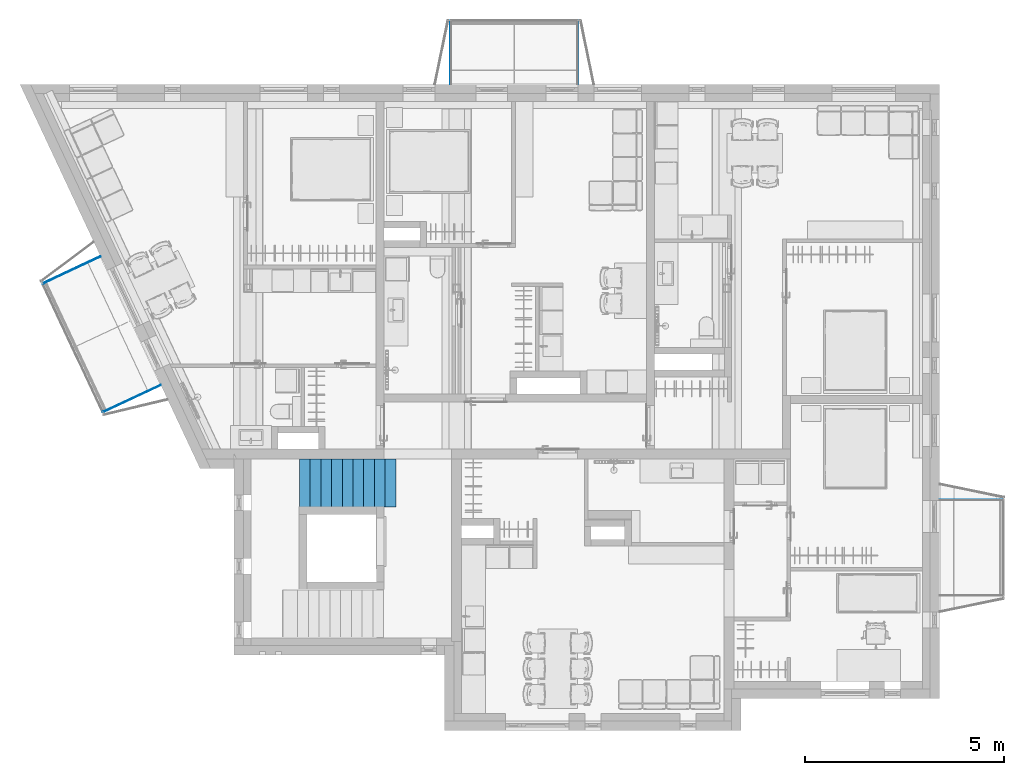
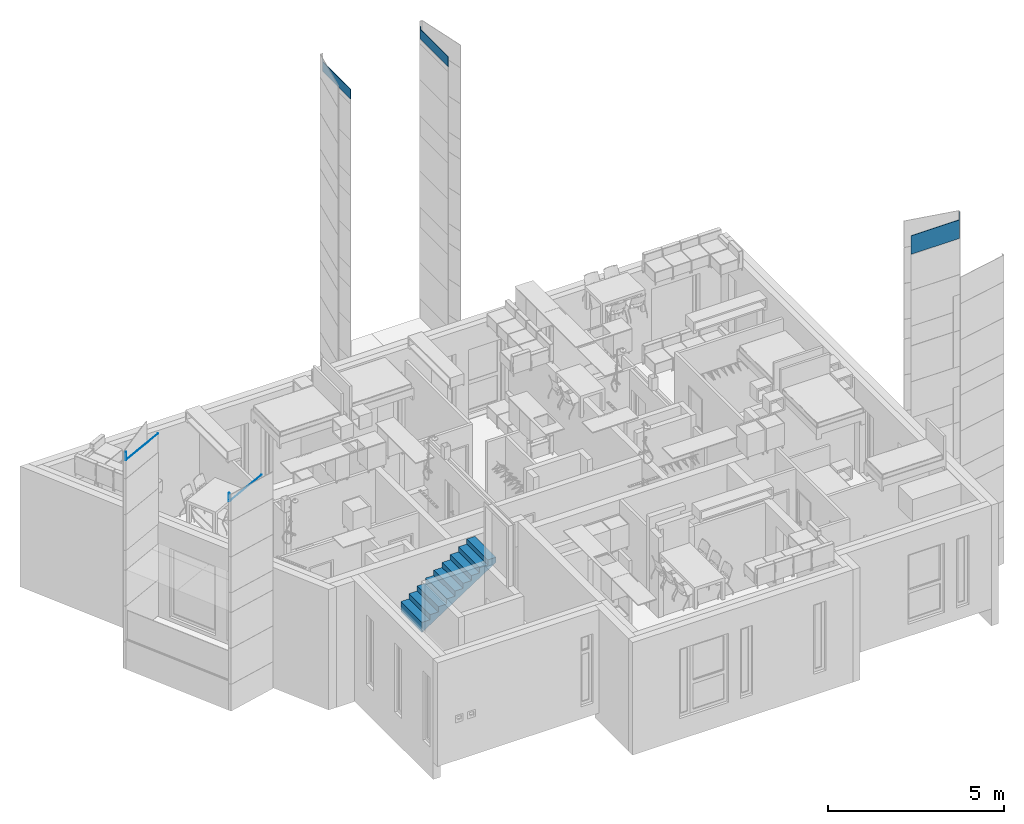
# One storey, part 42 of 125: 7 building element parts, 1 stair flight, 6 elements without a shape of their own.
"""IFC2X3 building model written with IfcOpenShell, lengths in millimetres."""

from ifc_helpers import new_model, entity, si_unit, converted_unit, direction, frame, origin, place, context, subcontext, project, spatial, faceted_brep, material, type_object, element, aggregate, save


model = new_model("IFC2X3")

# Units and contexts
model_context = context("Model", 3, precision=0.01, world=origin(), true_north=direction((6.123233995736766e-17, 1.0)))
plan_context = context("Plan", 3, precision=0.01, world=origin(), true_north=direction((6.123233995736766e-17, 1.0)))
body_context = subcontext(model_context, "Body", "Model", "MODEL_VIEW")
ifc_project = project(units=[si_unit("LENGTHUNIT", "METRE", prefix="MILLI"), converted_unit("PLANEANGLEUNIT", "DEGREE", entity("IfcPlaneAngleMeasure", 0.017453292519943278), si_unit("PLANEANGLEUNIT", "RADIAN"), dimensions=[0, 0, 0, 0, 0, 0, 0]), si_unit("AREAUNIT", "SQUARE_METRE")], contexts=[model_context, plan_context])

# Site, building, storey
site_placement = place(None, origin())
site = spatial("IfcSite", under=ifc_project, at=site_placement, Name="Default", CompositionType="ELEMENT")
building_placement = place(site_placement, origin())
building = spatial("IfcBuilding", under=site, at=building_placement, CompositionType="ELEMENT")
storey_placement = place(building_placement, frame((0.0, 0.0, 3125.0)))
storey = spatial("IfcBuildingStorey", under=building, at=storey_placement, Name="2K", CompositionType="ELEMENT", Elevation=3125.0)

# Stair, stair flight
type_product = type_object("IfcTypeProduct", Name="Precast Stair:Default. Monteeritav raudbetoontrepp")
stair_placement = place(storey_placement, origin())
stair = element("IfcStair", 1, at=stair_placement, inside=storey, type_object=type_product, Name="Precast Stair:Stair", ObjectType="Precast Stair:Default. Monteeritav raudbetoontrepp", ShapeType="HALF_TURN_STAIR")
ifc_material_1 = material(Name="Temp. Betoon. Armeeritud. Kohtvalu")
stair_flight_type = type_object("IfcStairFlightType", Name="Monolithic Run:Default Run. Raudbetoon", PredefinedType="STRAIGHT")
stair_flight_placement = place(stair_placement, frame((1213.7438214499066, 5197.496907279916, 0.0)))
stair_flight = element("IfcStairFlight", 2, at=stair_flight_placement, type_object=stair_flight_type, material=ifc_material_1, Name="Precast Stair:Stair:508931 Run 2", ObjectType="Monolithic Run:Default Run. Raudbetoon", NumberOfRiser=10, NumberOfTreads=9, RiserHeight=0.5777923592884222, TreadLength=0.8858267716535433, context=body_context, shape_type="Brep", body=[
    faceted_brep([(270.0, 1200.0, 1741.1111111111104), (0.0, 1200.0, 1741.1111111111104), (0.0, 0.0, 1741.1111111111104), (270.0, 0.0, 1741.1111111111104), (270.0, 1200.0, 1562.022951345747), (0.0, 1200.0, 1385.911840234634), (0.0, 0.0, 1385.911840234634), (270.0, 0.0, 1562.0229513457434), (540.0, 1200.0, 1917.2222222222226), (270.0, 1200.0, 1917.2222222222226), (270.0, 0.0, 1917.2222222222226), (540.0, 0.0, 1917.2222222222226), (540.0, 1200.0, 1738.1340624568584), (540.0, 0.0, 1738.1340624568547), (810.0, 1200.0, 2093.333333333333), (540.0, 1200.0, 2093.333333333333), (540.0, 0.0, 2093.333333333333), (810.0, 0.0, 2093.333333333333), (810.0, 1200.0, 1914.2451735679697), (810.0, 0.0, 1914.245173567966), (1080.0, 1200.0, 2269.4444444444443), (810.0, 1200.0, 2269.4444444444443), (810.0, 0.0, 2269.4444444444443), (1080.0, 0.0, 2269.4444444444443), (1080.0, 1200.0, 2090.356284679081), (1080.0, 0.0, 2090.3562846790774), (1350.0, 1200.0, 2445.5555555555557), (1080.0, 1200.0, 2445.5555555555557), (1080.0, 0.0, 2445.5555555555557), (1350.0, 0.0, 2445.5555555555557), (1350.0, 1200.0, 2266.4673957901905), (1350.0, 0.0, 2266.467395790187), (1620.0, 1200.0, 2621.666666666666), (1350.0, 1200.0, 2621.666666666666), (1350.0, 0.0, 2621.666666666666), (1620.0, 0.0, 2621.666666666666), (1620.0, 1200.0, 2442.5785069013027), (1620.0, 0.0, 2442.578506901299), (1890.0, 1200.0, 2797.7777777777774), (1620.0, 1200.0, 2797.7777777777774), (1620.0, 0.0, 2797.7777777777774), (1890.0, 0.0, 2797.7777777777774), (1890.0, 1200.0, 2618.689618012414), (1890.0, 0.0, 2618.6896180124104), (2160.0, 1200.0, 2973.8888888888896), (1890.0, 1200.0, 2973.8888888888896), (1890.0, 0.0, 2973.8888888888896), (2160.0, 0.0, 2973.8888888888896), (2160.0, 1200.0, 2794.8007291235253), (2160.0, 0.0, 2794.8007291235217), (2430.0, 1200.0, 2970.911840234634), (2430.0, 0.0, 2970.911840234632), (2430.0, 1200.0, 3150.0), (2160.0, 1200.0, 3150.0), (2160.0, 0.0, 3150.0), (2430.0, 0.0, 3150.0)], [[[0, 1, 2, 3]], [[1, 0, 4, 5]], [[2, 1, 5, 6]], [[3, 2, 6, 7]], [[8, 9, 10, 11]], [[9, 8, 12, 4, 0]], [[10, 9, 0, 3]], [[11, 10, 3, 7, 13]], [[14, 15, 16, 17]], [[15, 14, 18, 12, 8]], [[16, 15, 8, 11]], [[17, 16, 11, 13, 19]], [[20, 21, 22, 23]], [[21, 20, 24, 18, 14]], [[22, 21, 14, 17]], [[23, 22, 17, 19, 25]], [[26, 27, 28, 29]], [[27, 26, 30, 24, 20]], [[28, 27, 20, 23]], [[29, 28, 23, 25, 31]], [[32, 33, 34, 35]], [[33, 32, 36, 30, 26]], [[34, 33, 26, 29]], [[35, 34, 29, 31, 37]], [[38, 39, 40, 41]], [[39, 38, 42, 36, 32]], [[40, 39, 32, 35]], [[41, 40, 35, 37, 43]], [[44, 45, 46, 47]], [[45, 44, 48, 42, 38]], [[46, 45, 38, 41]], [[47, 46, 41, 43, 49]], [[5, 4, 12, 18, 24, 30, 36, 42, 48, 50, 51, 49, 43, 37, 31, 25, 19, 13, 7, 6]], [[52, 53, 54, 55]], [[53, 52, 50, 48, 44]], [[54, 53, 44, 47]], [[55, 54, 47, 49, 51]], [[52, 55, 51, 50]]]),
])
aggregate(stair, [stair_flight])

# Wall, building element part
wall_type = type_object("IfcWallType", Name="Basic Wall:VS-komposiit", PredefinedType="STANDARD")
wall_1_placement = place(storey_placement, frame((5025.4165884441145, 17432.0, -1010.0), z_axis=(0.0, 0.0, 1.0), x_axis=(0.0, -1.0, 0.0)))
wall_1 = element("IfcWall", 3, at=wall_1_placement, inside=storey, type_object=wall_type, Name="Basic Wall:VS-komposiit", ObjectType="Basic Wall:VS-komposiit")
ifc_material_2 = material(Name="_K. Õhk. Roov. Fassaadikatte alusroov. Horisontaalne. 25 mm")
building_element_part_1_placement = place(wall_1_placement, frame((1597.0, -10.0000004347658, 13096.0)))
building_element_part_1 = element("IfcBuildingElementPart", 4, at=building_element_part_1_placement, material=ifc_material_2, Name="Part", context=body_context, shape_type="Brep", body=[
    faceted_brep([(-1597.0, 16.000000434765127, 0.0), (0.0, 16.000000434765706, 0.0), (0.0, 4.3476661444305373e-07, 0.0), (-1597.0, 4.347660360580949e-07, 0.0), (-1597.0, 16.000000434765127, 438.9999999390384), (-1582.017676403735, 16.00000043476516, 438.9999999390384), (-1582.017676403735, 16.00000043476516, 340.0), (0.0, 16.000000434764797, 340.0), (0.0, 4.3476661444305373e-07, 340.0), (-1582.0177149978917, 0.0, 340.0), (-1582.0177149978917, 4.347660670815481e-07, 438.9999999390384), (-1597.0, 4.347660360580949e-07, 438.9999999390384)], [[[0, 1, 2, 3]], [[4, 5, 6, 7, 1, 0]], [[8, 9, 10, 11, 3, 2]], [[7, 8, 2, 1]], [[11, 4, 0, 3]], [[5, 4, 11, 10]], [[6, 5, 10, 9]], [[7, 6, 9, 8]]]),
])
aggregate(wall_1, [building_element_part_1])

wall_2_placement = place(storey_placement, frame((8225.0, 17432.0, -1010.0), z_axis=(0.0, 0.0, 1.0), x_axis=(0.0, -1.0, 0.0)))
wall_2 = element("IfcWall", 5, at=wall_2_placement, inside=storey, type_object=wall_type, Name="Basic Wall:VS-komposiit", ObjectType="Basic Wall:VS-komposiit")
building_element_part_2_placement = place(wall_2_placement, frame((1597.0, -6.0, 13096.0)))
building_element_part_2 = element("IfcBuildingElementPart", 6, at=building_element_part_2_placement, material=ifc_material_2, Name="Part", context=body_context, shape_type="Brep", body=[
    faceted_brep([(0.0, 0.0, 0.0), (-1597.0, 0.0, 0.0), (-1597.0, 16.0, 0.0), (0.0, 16.0, 0.0), (0.0, 0.0, 340.0), (-1582.0099875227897, 0.0, 340.0), (-1582.009987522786, 0.0, 438.9999999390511), (-1597.0, 0.0, 438.9999999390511), (-1597.0, 16.0, 438.9999999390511), (-1582.009948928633, 16.0, 438.9999999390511), (-1582.009948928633, 16.0, 340.0), (0.0, 16.0, 340.0)], [[[0, 1, 2, 3]], [[4, 5, 6, 7, 1, 0]], [[8, 9, 10, 11, 3, 2]], [[11, 4, 0, 3]], [[7, 8, 2, 1]], [[7, 6, 9, 8]], [[6, 5, 10, 9]], [[5, 4, 11, 10]]]),
])
aggregate(wall_2, [building_element_part_2])

wall_3_placement = place(storey_placement, frame((18932.0, 5366.353411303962, -1010.0), z_axis=(0.0, 0.0, 1.0), x_axis=(-1.0, 0.0, 0.0)))
wall_3 = element("IfcWall", 7, at=wall_3_placement, inside=storey, type_object=wall_type, Name="Basic Wall:VS-komposiit", ObjectType="Basic Wall:VS-komposiit")
building_element_part_3_placement = place(wall_3_placement, frame((1594.0, 6.0, 9757.499999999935)))
building_element_part_3 = element("IfcBuildingElementPart", 8, at=building_element_part_3_placement, material=ifc_material_2, Name="Part", context=body_context, shape_type="Brep", body=[
    faceted_brep([(-1594.0, 0.0, 0.0), (0.0, 0.0, 0.0), (0.0, -16.0, 0.0), (-1594.0, -16.0, 0.0), (-1594.0, 0.0, 917.5000000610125), (-1579.0176764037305, 0.0, 917.5000000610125), (-1579.0176764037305, 0.0, 642.5000000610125), (0.0, 0.0, 642.5000000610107), (0.0, -16.0, 642.5000000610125), (-1579.0177149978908, -16.000000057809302, 642.5000000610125), (-1579.0177149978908, -16.0, 917.5000000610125), (-1594.0, -16.0, 917.5000000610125)], [[[0, 1, 2, 3]], [[4, 5, 6, 7, 1, 0]], [[8, 9, 10, 11, 3, 2]], [[7, 8, 2, 1]], [[11, 4, 0, 3]], [[5, 4, 11, 10]], [[6, 5, 10, 9]], [[7, 6, 9, 8]]]),
])
aggregate(wall_3, [building_element_part_3])

# Wall, building element parts
wall_4_placement = place(storey_placement, frame((-5240.017652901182, 10821.401183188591, -1010.0), z_axis=(0.0, 0.0, 1.0), x_axis=(0.905459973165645, 0.42443166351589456, 0.0)))
wall_4 = element("IfcWall", 9, at=wall_4_placement, inside=storey, type_object=wall_type, Name="Basic Wall:VS-komposiit", ObjectType="Basic Wall:VS-komposiit")
ifc_material_3 = material(Name="_K. Välisviimistlus. Alumiinium-komposiitplaat")
building_element_part_4_placement = place(wall_4_placement, frame((-17.53722353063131, -9.279431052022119, 7229.700000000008)))
building_element_part_4 = element("IfcBuildingElementPart", 10, at=building_element_part_4_placement, material=ifc_material_3, Name="Part", context=body_context, shape_type="Brep", body=[
    faceted_brep([(1614.5372235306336, 3.2794310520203, 0.0), (1614.5372235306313, -0.7205689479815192, 0.0), (1.5372235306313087, -0.7205689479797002, 0.0), (1.5372235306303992, 3.2794310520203, 0.0), (1614.5372235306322, 3.2794310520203, 0.3000763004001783), (1614.5372235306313, -0.7205689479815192, 0.3000763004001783), (1.5372235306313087, -0.7205689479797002, 275.29999999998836), (32.53722268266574, -0.7205689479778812, 275.29999999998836), (32.537222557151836, 3.279431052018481, 275.29999999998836), (1.5372235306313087, 3.279431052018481, 275.29999999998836), (32.53722268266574, -0.7205689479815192, 0.3000763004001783), (32.537222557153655, 3.279431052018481, 0.3000763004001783)], [[[0, 1, 2, 3]], [[4, 5, 1, 0]], [[6, 7, 8, 9]], [[8, 7, 10, 11]], [[5, 4, 11, 10]], [[9, 8, 11, 4, 0, 3]], [[7, 6, 2, 1, 5, 10]], [[6, 9, 3, 2]]]),
])
building_element_part_5_placement = place(wall_4_placement, frame((-6.148894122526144, -3.1177242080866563, 7229.700000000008)))
building_element_part_5 = element("IfcBuildingElementPart", 11, at=building_element_part_5_placement, material=ifc_material_2, Name="Part", context=body_context, shape_type="Brep", body=[
    faceted_brep([(1603.148894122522, -2.8822757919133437, 0.0), (6.148894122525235, -2.8822757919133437, 0.0), (6.148894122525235, 13.117724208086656, 0.0), (1603.1488941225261, 13.117724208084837, 0.0), (1603.1488941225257, -2.8822757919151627, 0.3000763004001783), (21.14889314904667, -2.8822757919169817, 0.3000763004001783), (21.148893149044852, -2.8822757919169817, 275.29999999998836), (6.148894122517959, -2.8822757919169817, 275.29999999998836), (6.148894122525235, 13.117724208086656, 275.29999999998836), (21.148892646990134, 13.117724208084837, 275.29999999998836), (21.148892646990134, 13.117724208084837, 0.3000763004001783), (1603.1488941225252, 13.117724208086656, 0.3000763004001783)], [[[0, 1, 2, 3]], [[4, 5, 6, 7, 1, 0]], [[8, 9, 10, 11, 3, 2]], [[11, 4, 0, 3]], [[7, 8, 2, 1]], [[7, 6, 9, 8]], [[6, 5, 10, 9]], [[5, 4, 11, 10]]]),
])
aggregate(wall_4, [building_element_part_4, building_element_part_5])

wall_5_placement = place(storey_placement, frame((-3722.2860921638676, 7583.557938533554, -1010.0), z_axis=(0.0, 0.0, 1.0), x_axis=(0.9054578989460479, 0.42443608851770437, 0.0)))
wall_5 = element("IfcWall", 12, at=wall_5_placement, inside=storey, type_object=wall_type, Name="Basic Wall:VS-komposiit", ObjectType="Basic Wall:VS-komposiit")
building_element_part_6_placement = place(wall_5_placement, frame((-6.148944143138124, -7.117664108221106, 7229.700000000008)))
building_element_part_6 = element("IfcBuildingElementPart", 13, at=building_element_part_6_placement, material=ifc_material_2, Name="Part", context=body_context, shape_type="Brep", body=[
    faceted_brep([(6.148944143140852, 13.117664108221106, 0.0), (1603.1489441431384, 13.117664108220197, 0.0), (1603.1489441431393, -2.8823358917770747, 0.0), (6.1489441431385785, -2.8823358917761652, 0.0), (6.148944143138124, 13.117664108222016, 275.29999999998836), (21.14710059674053, 13.117664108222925, 275.2999999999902), (21.147100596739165, 13.117664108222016, 0.3000763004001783), (1603.1489441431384, 13.117664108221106, 0.3000763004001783), (1603.1489441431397, -2.8823358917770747, 0.3000763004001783), (21.14702290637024, -2.8823358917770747, 0.3000763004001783), (21.14702290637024, -2.8823358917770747, 275.29999999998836), (6.148944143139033, -2.8823358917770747, 275.29999999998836)], [[[0, 1, 2, 3]], [[4, 5, 6, 7, 1, 0]], [[8, 9, 10, 11, 3, 2]], [[7, 8, 2, 1]], [[11, 4, 0, 3]], [[5, 4, 11, 10]], [[6, 5, 10, 9]], [[7, 6, 9, 8]]]),
])
building_element_part_7_placement = place(wall_5_placement, frame((-17.537236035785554, 6.720583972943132, 7229.700000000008)))
building_element_part_7 = element("IfcBuildingElementPart", 14, at=building_element_part_7_placement, material=ifc_material_3, Name="Part", context=body_context, shape_type="Brep", body=[
    faceted_brep([(1614.5372360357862, 3.2794160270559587, 0.0), (1614.5372360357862, -0.7205839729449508, 0.0), (1.5372360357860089, -0.7205839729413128, 0.0), (1.5372360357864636, 3.2794160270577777, 0.0), (1614.5372360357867, 3.2794160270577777, 0.3000763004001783), (1614.5372360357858, -0.7205839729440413, 0.3000763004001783), (32.53541191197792, 3.279416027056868, 275.29999999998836), (1.5372360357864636, 3.2794160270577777, 275.29999999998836), (1.5372360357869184, -0.7205839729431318, 275.29999999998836), (32.535392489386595, -0.7205839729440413, 275.29999999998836), (32.535392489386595, -0.7205839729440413, 0.3000763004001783), (32.53541191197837, 3.279416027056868, 0.3000763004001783)], [[[0, 1, 2, 3]], [[4, 5, 1, 0]], [[6, 7, 8, 9]], [[6, 9, 10, 11]], [[5, 4, 11, 10]], [[9, 8, 2, 1, 5, 10]], [[7, 6, 11, 4, 0, 3]], [[8, 7, 3, 2]]]),
])
aggregate(wall_5, [building_element_part_6, building_element_part_7])

save(model, "model.ifc")
